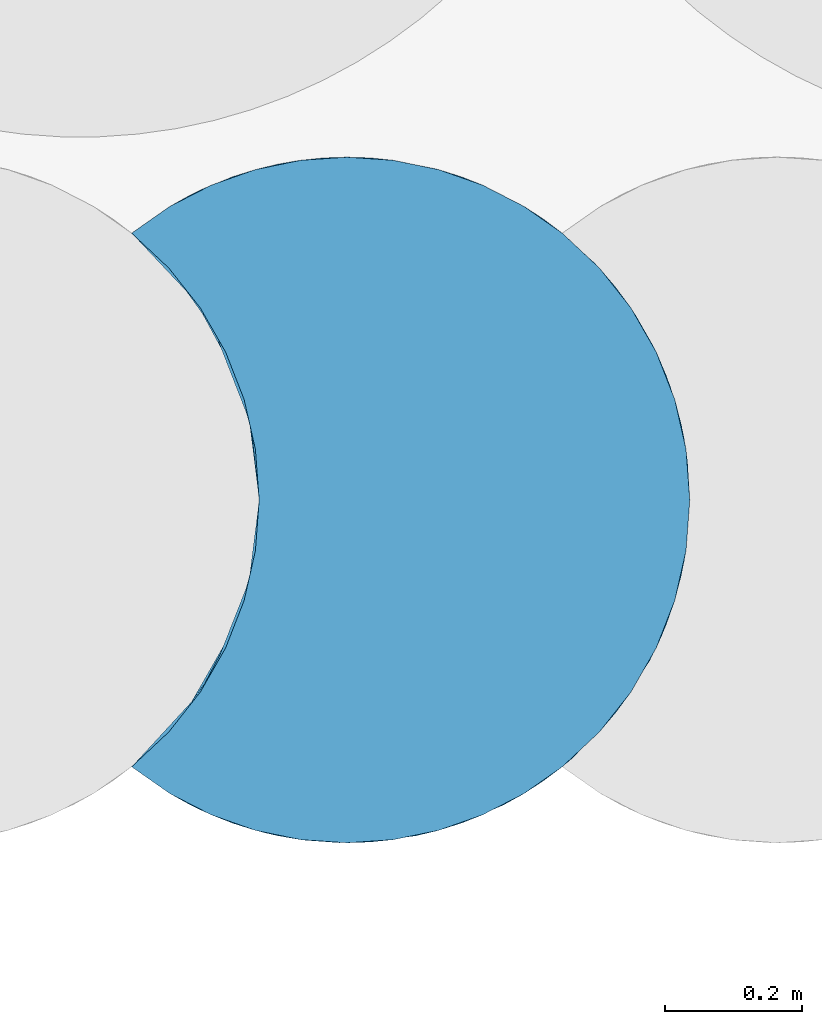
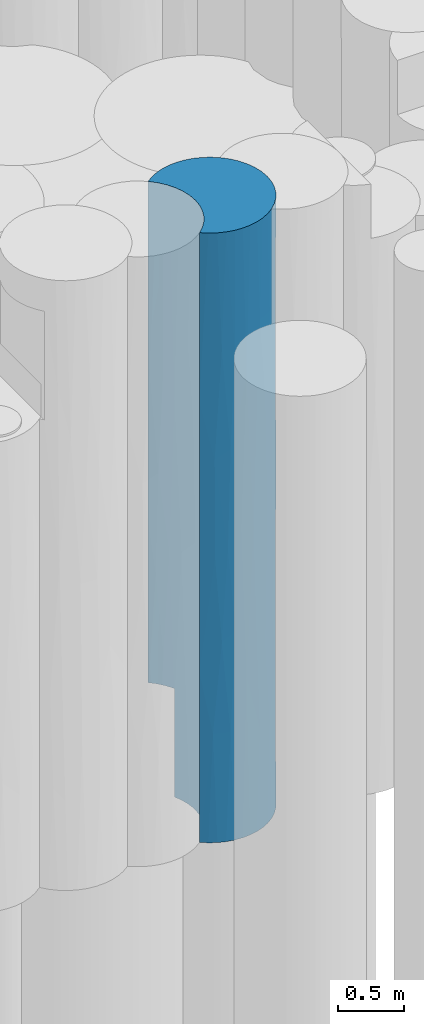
# One storey, part 21 of 104: 1 pile.
"""IFC2X3 building model written with IfcOpenShell, lengths in millimetres."""

from ifc_helpers import new_model, entity, si_unit, converted_unit, derived_unit, direction, frame, origin, place, context, subcontext, project, spatial, faceted_brep, source, transform, mapped, material, element, save


model = new_model("IFC2X3")

# Units and contexts
model_context = context("Model", 3, precision=0.01, world=origin(), true_north=direction((6.12303176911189e-17, 1.0)))
body_context = subcontext(model_context, "Body", "Model", "MODEL_VIEW")
ifc_project = project(units=[si_unit("LENGTHUNIT", "METRE", prefix="MILLI"), si_unit("AREAUNIT", "SQUARE_METRE", prefix="MILLI"), si_unit("VOLUMEUNIT", "CUBIC_METRE"), converted_unit("PLANEANGLEUNIT", "DEGREE", entity("IfcRatioMeasure", 0.0174532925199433), si_unit("PLANEANGLEUNIT", "RADIAN"), dimensions=[0, 0, 0, 0, 0, 0, 0]), si_unit("MASSUNIT", "GRAM", prefix="KILO"), derived_unit("MASSDENSITYUNIT", [(si_unit("MASSUNIT", "GRAM", prefix="KILO"), 1), (si_unit("LENGTHUNIT", "METRE"), -3)]), derived_unit("MOMENTOFINERTIAUNIT", [(si_unit("LENGTHUNIT", "METRE"), 4)]), si_unit("TIMEUNIT", "SECOND"), si_unit("FREQUENCYUNIT", "HERTZ"), si_unit("THERMODYNAMICTEMPERATUREUNIT", "DEGREE_CELSIUS"), derived_unit("THERMALTRANSMITTANCEUNIT", [(si_unit("MASSUNIT", "GRAM", prefix="KILO"), 1), (si_unit("THERMODYNAMICTEMPERATUREUNIT", "KELVIN"), -1), (si_unit("TIMEUNIT", "SECOND"), -3)]), derived_unit("VOLUMETRICFLOWRATEUNIT", [(si_unit("LENGTHUNIT", "METRE"), 3), (si_unit("TIMEUNIT", "SECOND"), -1)]), si_unit("ELECTRICCURRENTUNIT", "AMPERE"), si_unit("ELECTRICVOLTAGEUNIT", "VOLT"), si_unit("POWERUNIT", "WATT"), si_unit("FORCEUNIT", "NEWTON", prefix="KILO"), si_unit("ILLUMINANCEUNIT", "LUX"), si_unit("LUMINOUSFLUXUNIT", "LUMEN"), si_unit("LUMINOUSINTENSITYUNIT", "CANDELA"), derived_unit("USERDEFINED", [(si_unit("MASSUNIT", "GRAM", prefix="KILO"), -1), (si_unit("LENGTHUNIT", "METRE"), -2), (si_unit("TIMEUNIT", "SECOND"), 3), (si_unit("LUMINOUSFLUXUNIT", "LUMEN"), 1)]), derived_unit("LINEARVELOCITYUNIT", [(si_unit("LENGTHUNIT", "METRE"), 1), (si_unit("TIMEUNIT", "SECOND"), -1)]), si_unit("PRESSUREUNIT", "PASCAL"), derived_unit("USERDEFINED", [(si_unit("LENGTHUNIT", "METRE"), -2), (si_unit("MASSUNIT", "GRAM", prefix="KILO"), 1), (si_unit("TIMEUNIT", "SECOND"), -2)]), derived_unit("LINEARFORCEUNIT", [(si_unit("MASSUNIT", "GRAM", prefix="KILO"), 1), (si_unit("LENGTHUNIT", "METRE"), 1), (si_unit("TIMEUNIT", "SECOND"), -2), (si_unit("LENGTHUNIT", "METRE"), -1)]), derived_unit("PLANARFORCEUNIT", [(si_unit("MASSUNIT", "GRAM", prefix="KILO"), 1), (si_unit("LENGTHUNIT", "METRE"), 1), (si_unit("TIMEUNIT", "SECOND"), -2), (si_unit("LENGTHUNIT", "METRE"), -2)])], contexts=[model_context])

# Site, building, storey
site_placement = place(None, origin())
site = spatial("IfcSite", under=ifc_project, at=site_placement, Name="Theater aan de Parade", CompositionType="ELEMENT")
building_placement = place(site_placement, origin())
building = spatial("IfcBuilding", under=site, at=building_placement, Name="Theater aan de Parade", CompositionType="ELEMENT")
storey_placement = place(building_placement, frame((0.0, 0.0, -5520.0)))
storey = spatial("IfcBuildingStorey", under=building, at=storey_placement, Name="-2 kelder", CompositionType="ELEMENT", Elevation=-5520.0)

# Pile
ifc_material = material(Name="00_PBT_MAT_grout")
shared_shape = source(origin(), body_context, "Body", "Brep", [
    faceted_brep([(786.691195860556, 669.132225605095, 0.0), (802.676759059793, 614.518366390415, 0.0), (812.351470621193, 558.457204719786, 0.0), (815.595272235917, 501.595272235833, 0.0), (810.081014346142, 427.542244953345, 0.0), (793.660970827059, 355.126204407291, 0.0), (766.697585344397, 285.941143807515, 0.0), (729.786240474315, 221.513423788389, 0.0), (683.741416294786, 163.263457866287, 0.0), (629.573708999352, 112.471523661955, 0.0), (574.005639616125, 73.5484499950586, 0.0), (513.679312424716, 42.5062688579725, 0.0), (449.710167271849, 19.9177920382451, 0.0), (383.274865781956, 6.19697528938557, 0.0), (315.594989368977, 1.5952722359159, 0.0), (247.914799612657, 6.1970953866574, 0.0), (181.478594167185, 19.9182884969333, 0.0), (117.508224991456, 42.5075663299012, 0.0), (57.1823898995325, 73.5499682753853, 0.0), (1.5952722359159, 112.48860305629, 0.0), (55.7556313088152, 163.278926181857, 0.0), (101.79731605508, 221.529803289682, 0.0), (138.705014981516, 285.956685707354, 0.0), (165.664839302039, 355.138831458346, 0.0), (182.082270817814, 427.550635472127, 0.0), (187.595272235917, 501.595272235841, 0.0), (184.351856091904, 558.453837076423, 0.0), (174.676819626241, 614.518105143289, 0.0), (158.690674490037, 669.133691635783, 0.0), (136.59415864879, 721.595272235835, 0.0), (764.59415864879, 721.595272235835, 0.0), (803.850629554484, 609.329695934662, 1098.76743153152), (764.59415864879, 721.595272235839, 1000.0), (737.011343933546, 770.683537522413, 3350.65346789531), (761.366388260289, 728.064060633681, 2530.55329258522), (706.349146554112, 813.543039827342, 2504.57977053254), (815.595272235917, 501.595272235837, 2810.0), (815.595272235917, 501.595272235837, 1561.53772504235), (796.033905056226, 640.082528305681, 2185.7688370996), (446.597837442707, 984.128512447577, 3310.00430009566), (349.517904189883, 1000.44320000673, 3309.99592035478), (349.513057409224, 1000.44352957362, 4486.05467823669), (769.150938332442, 712.040651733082, 4647.38674584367), (803.217150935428, 612.161557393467, 4576.62228276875), (781.46536187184, 683.158097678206, 3717.05793522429), (315.598129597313, 1001.59527222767, 1000.0), (247.914247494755, 996.993373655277, 1000.0), (281.678049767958, 1000.44356783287, 2218.17509402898), (449.710166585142, 983.272752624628, 5620.0), (482.078281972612, 973.064685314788, 4149.15755263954), (602.467115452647, 911.112726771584, 2133.92442127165), (682.65649192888, 841.103830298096, 1000.0), (629.595272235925, 890.70194141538, 1000.0), (513.689946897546, 960.679686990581, 1000.0), (482.088212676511, 973.0611785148, 2470.89044496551), (683.741416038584, 839.92708688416, 5620.0), (707.846598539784, 811.658003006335, 4209.01499249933), (602.455926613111, 911.120564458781, 4486.06498501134), (574.01643850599, 929.635575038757, 1000.0), (727.977154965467, 784.333990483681, 1000.0), (214.463722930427, 991.260882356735, 4202.53769453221), (102.916724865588, 954.108073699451, 3914.33240845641), (86.8181886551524, 946.186147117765, 4787.72189773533), (807.681109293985, 590.204126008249, 3711.95947289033), (810.081014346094, 575.648299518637, 5620.0), (793.660970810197, 648.064340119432, 5620.0), (602.467114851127, 911.112727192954, 3309.99087476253), (766.697585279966, 717.249400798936, 5620.0), (729.78624032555, 781.677120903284, 5620.0), (1.5952722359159, 890.701941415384, 2561.5317559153), (1.5952722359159, 890.70194141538, 4123.06351183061), (182.78208985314, 983.633298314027, 2000.73200514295), (181.474504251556, 983.27111717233, 1000.0), (574.005639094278, 929.642094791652, 5620.0), (629.583826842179, 890.711177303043, 5620.0), (247.914799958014, 996.993449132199, 5620.0), (315.594989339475, 1001.59527223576, 5620.0), (676.678426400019, 847.455006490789, 3303.46444704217), (382.28647146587, 997.127596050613, 2412.9147865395), (449.719299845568, 983.270209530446, 1000.0), (383.281381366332, 996.992679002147, 1000.0), (815.595272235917, 501.595272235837, 5620.0), (815.595272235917, 501.595272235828, 4215.0), (815.595272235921, 501.595272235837, 4058.46227495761), (1.5952722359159, 890.70194141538, 5620.0), (57.1823902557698, 929.640576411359, 5620.0), (149.104149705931, 973.061820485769, 2892.10046095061), (243.892809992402, 996.427321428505, 3268.07195479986), (86.8102220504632, 946.182047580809, 2023.19420083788), (117.501033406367, 960.679875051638, 1000.0), (513.679311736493, 960.684275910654, 5620.0), (1.59527223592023, 890.701941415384, 1000.0), (117.50822549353, 960.682978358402, 5620.0), (383.274865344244, 996.993569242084, 5620.0), (57.1737559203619, 929.635363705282, 1000.0), (181.478594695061, 983.27225612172, 5620.0), (815.595272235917, 501.595272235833, 1405.0), (214.463722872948, 11.9296621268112, 1001.60366220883), (808.009902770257, 414.83219462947, 1847.98448740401), (792.434434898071, 351.181134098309, 2810.0), (86.8181884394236, 57.0043974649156, 1001.60823295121), (349.513058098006, 2.74701494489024, 1456.93127707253), (98.4515162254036, 51.2081174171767, 3529.640561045), (1.5952722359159, 112.488603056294, 4058.45131446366), (1.59527223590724, 112.488603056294, 3123.07163140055), (249.701943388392, 5.95622089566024, 4503.82682990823), (149.109845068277, 30.1267127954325, 4541.99463838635), (214.463723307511, 11.9296620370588, 3609.13851701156), (781.46536321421, 320.032450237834, 1716.18295604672), (707.846599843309, 191.532543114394, 2810.0), (707.846599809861, 191.532543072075, 1367.61085804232), (482.078283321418, 30.1258596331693, 920.01739942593), (602.45592774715, 92.0699808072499, 920.031773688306), (638.186458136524, 119.580970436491, 1901.05779753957), (544.369594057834, 57.0029762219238, 1664.68203221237), (810.081014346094, 427.542244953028, 5620.0), (803.217151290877, 391.0289886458, 4660.00032120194), (57.1823902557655, 73.5499680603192, 5620.0), (117.50822549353, 42.5075661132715, 5620.0), (149.109844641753, 30.1267129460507, 1845.00481116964), (254.091028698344, 5.39246286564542, 1927.06357322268), (602.455927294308, 92.0699804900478, 4699.96822715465), (482.078282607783, 30.1258593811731, 4699.98260157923), (544.36959341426, 57.0029758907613, 3955.31797055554), (683.741416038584, 163.263457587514, 5620.0), (629.583826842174, 112.479367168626, 5620.0), (181.478594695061, 19.9182883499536, 5620.0), (101.111523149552, 49.9353101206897, 2619.91457111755), (1.59527223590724, 112.488603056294, 1561.52294586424), (773.711306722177, 301.271287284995, 4758.76160589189), (781.465363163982, 320.03245010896, 3903.81704454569), (1.59527223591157, 112.488603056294, 5620.0), (383.274865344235, 6.19697522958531, 5620.0), (315.594989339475, 1.5952722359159, 5620.0), (349.513057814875, 2.74701492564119, 4251.72331694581), (247.914799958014, 6.19709533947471, 5620.0), (808.009902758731, 414.832194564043, 3772.01551167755), (773.711306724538, 301.271287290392, 861.238394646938), (446.449233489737, 19.0217122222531, 1841.02651395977), (445.214515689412, 18.6886024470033, 3769.12880331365), (793.660970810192, 355.126204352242, 5620.0), (766.697585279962, 285.941143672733, 5620.0), (803.21715130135, 391.028988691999, 959.999678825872), (304.342544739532, 1.72191214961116, 2858.50339849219), (193.948211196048, 16.6189918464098, 2685.15587669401), (513.679311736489, 42.50626856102, 5620.0), (449.710166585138, 19.9177918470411, 5620.0), (574.005639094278, 73.5484496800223, 5620.0), (416.72548107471, 11.9293852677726, 2810.0), (571.530120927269, 72.0637213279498, 2810.0), (707.846599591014, 191.532542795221, 4252.38914051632), (729.786240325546, 221.513423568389, 5620.0), (757.411397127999, 267.504452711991, 3167.42466505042), (638.186457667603, 119.580970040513, 3718.94220097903), (645.147285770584, 125.569381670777, 2737.35178432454), (1.59527223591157, 112.48860305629, 2496.92458727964), (55.7556313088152, 839.911618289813, 5620.0), (101.79731605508, 781.660741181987, 5620.0), (138.705014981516, 717.233858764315, 5620.0), (165.664839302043, 648.051713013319, 5620.0), (182.082270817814, 575.639908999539, 5620.0), (187.595272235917, 501.595272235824, 5620.0), (182.08227081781, 427.550635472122, 5620.0), (165.664839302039, 355.138831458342, 5620.0), (138.705014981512, 285.95668570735, 5620.0), (101.79731605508, 221.529803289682, 5620.0), (55.7556313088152, 163.278926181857, 5620.0), (136.59415864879, 721.595272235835, 1000.0), (172.12200841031, 625.020723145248, 2185.76883889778), (119.427502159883, 753.628851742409, 2433.42986645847), (175.219548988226, 612.150980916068, 4576.67015981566), (187.595272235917, 501.595272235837, 4058.46227468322), (187.595272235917, 501.595272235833, 4839.23114702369), (175.896633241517, 609.120993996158, 1097.45129906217), (94.6291822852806, 791.980182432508, 3512.63833996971), (153.470887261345, 683.143919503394, 3717.14064093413), (121.448734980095, 750.133343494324, 4576.67015594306), (187.595272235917, 501.595272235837, 2810.0), (187.595272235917, 501.595272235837, 1561.53772531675), (63.9162977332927, 830.810225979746, 1978.06996583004), (179.682000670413, 590.199175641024, 3712.09113047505), (61.853358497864, 833.153539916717, 4677.61981977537), (99.9793152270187, 784.330839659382, 1000.0), (54.6608621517, 841.09910535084, 1000.0), (187.595272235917, 501.595272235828, 780.768852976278), (187.595272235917, 501.595272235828, 3123.07541190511), (174.669644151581, 388.641493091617, 3590.76885291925), (179.684618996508, 413.005911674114, 1171.15327929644), (153.470888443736, 320.046628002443, 4528.23196711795), (178.678003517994, 407.585958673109, 4768.20537871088), (79.8592440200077, 191.548539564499, 992.298435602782), (153.470888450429, 320.046628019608, 992.298435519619), (172.048086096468, 377.879989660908, 2161.96816482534), (101.213610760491, 220.668466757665, 4584.62325484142), (121.448735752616, 253.057202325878, 3610.51128799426), (121.448735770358, 253.057202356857, 1789.11083026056), (68.3744799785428, 177.547135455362, 3047.10534667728), (64.7189653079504, 173.300099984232, 2029.23114692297), (121.049079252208, 252.360850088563, 2699.81105912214)], [[[0, 1, 2, 3, 4, 5, 6, 7, 8, 9, 10, 11, 12, 13, 14, 15, 16, 17, 18, 19, 20, 21, 22, 23, 24, 25, 26, 27, 28, 29, 30]], [[31, 0, 32]], [[33, 34, 35]], [[36, 37, 38]], [[39, 40, 41]], [[38, 37, 31]], [[42, 43, 44]], [[45, 46, 47]], [[48, 49, 41]], [[50, 51, 52]], [[53, 54, 50]], [[55, 56, 57]], [[50, 35, 51]], [[52, 58, 50]], [[0, 30, 32]], [[32, 59, 34]], [[35, 34, 59]], [[60, 61, 62]], [[43, 63, 44]], [[3, 2, 31]], [[64, 43, 65]], [[56, 42, 33]], [[54, 66, 50]], [[42, 65, 43]], [[35, 59, 51]], [[42, 67, 65]], [[67, 42, 68]], [[61, 69, 70]], [[71, 46, 72]], [[73, 74, 57]], [[41, 75, 76]], [[2, 1, 31]], [[77, 57, 56]], [[78, 79, 80]], [[43, 81, 82, 83]], [[79, 54, 53]], [[56, 55, 68]], [[78, 80, 45]], [[84, 85, 62]], [[45, 47, 78]], [[78, 47, 40]], [[86, 87, 71]], [[87, 86, 60]], [[88, 71, 89]], [[0, 31, 1]], [[39, 66, 54]], [[57, 90, 73]], [[71, 88, 86]], [[77, 56, 33]], [[69, 88, 91]], [[85, 92, 62]], [[50, 58, 53]], [[41, 49, 39]], [[57, 74, 55]], [[90, 49, 48]], [[93, 41, 76]], [[50, 66, 77]], [[41, 93, 48]], [[60, 75, 41]], [[86, 61, 60]], [[94, 88, 89]], [[69, 86, 88]], [[91, 88, 94]], [[95, 75, 60]], [[41, 40, 87]], [[95, 60, 62]], [[49, 57, 66]], [[81, 43, 64]], [[49, 90, 57]], [[63, 43, 83]], [[47, 71, 87]], [[63, 38, 44]], [[46, 71, 47]], [[89, 71, 72]], [[33, 42, 44]], [[68, 42, 56]], [[83, 36, 63]], [[38, 63, 36]], [[38, 31, 32]], [[31, 37, 96, 3]], [[66, 39, 49]], [[78, 39, 54]], [[69, 61, 86]], [[84, 62, 70]], [[62, 92, 95]], [[70, 62, 61]], [[41, 87, 60]], [[47, 87, 40]], [[34, 44, 38]], [[77, 33, 35]], [[44, 34, 33]], [[32, 34, 38]], [[50, 77, 35]], [[77, 66, 57]], [[39, 78, 40]], [[78, 54, 79]], [[97, 16, 15]], [[98, 36, 99]], [[97, 100, 17]], [[14, 97, 15]], [[14, 13, 101]], [[102, 103, 104]], [[105, 106, 107]], [[108, 109, 110]], [[12, 111, 13]], [[112, 113, 114]], [[97, 14, 101]], [[115, 116, 81]], [[117, 106, 118]], [[11, 111, 12]], [[119, 97, 120]], [[10, 111, 11]], [[121, 122, 123]], [[124, 125, 121]], [[106, 126, 118]], [[127, 128, 119]], [[129, 130, 116]], [[117, 131, 103]], [[132, 133, 134]], [[126, 106, 105]], [[17, 16, 97]], [[110, 8, 7]], [[105, 133, 135]], [[136, 82, 116]], [[122, 132, 134]], [[137, 6, 5]], [[112, 111, 10]], [[120, 97, 101]], [[111, 138, 101]], [[139, 123, 122]], [[111, 112, 114]], [[105, 107, 134]], [[137, 7, 6]], [[106, 102, 107]], [[140, 141, 129]], [[36, 136, 99]], [[142, 5, 4]], [[100, 97, 119]], [[137, 142, 108]], [[143, 144, 120]], [[143, 134, 107]], [[137, 5, 142]], [[122, 145, 146]], [[112, 8, 110]], [[112, 10, 9]], [[145, 122, 147]], [[122, 121, 147]], [[17, 100, 18]], [[148, 138, 149]], [[125, 147, 121]], [[124, 150, 151]], [[151, 150, 129]], [[140, 116, 115]], [[152, 108, 99]], [[116, 140, 129]], [[121, 153, 150]], [[103, 106, 117]], [[114, 113, 149]], [[96, 142, 3]], [[81, 116, 82]], [[18, 100, 19]], [[152, 150, 109]], [[144, 102, 127]], [[119, 128, 100]], [[19, 100, 128]], [[138, 111, 114]], [[13, 111, 101]], [[8, 112, 9]], [[113, 112, 110]], [[132, 122, 146]], [[139, 148, 149]], [[153, 121, 123]], [[124, 121, 150]], [[136, 116, 130]], [[3, 142, 4]], [[98, 142, 96]], [[110, 109, 113]], [[150, 153, 109]], [[154, 149, 113]], [[149, 123, 139]], [[123, 149, 153]], [[153, 149, 154]], [[122, 134, 139]], [[134, 148, 139]], [[103, 102, 106]], [[144, 127, 119]], [[149, 138, 114]], [[148, 101, 138]], [[143, 101, 148]], [[144, 119, 120]], [[120, 101, 143]], [[102, 144, 107]], [[134, 143, 148]], [[107, 144, 143]], [[102, 104, 127]], [[127, 104, 155, 128]], [[99, 136, 130]], [[136, 36, 83, 82]], [[98, 96, 37, 36]], [[152, 99, 130]], [[108, 142, 98]], [[99, 108, 98]], [[151, 129, 141]], [[150, 130, 129]], [[108, 110, 137]], [[7, 137, 110]], [[133, 105, 134]], [[126, 105, 135]], [[150, 152, 130]], [[108, 152, 109]], [[113, 109, 154]], [[153, 154, 109]], [[90, 48, 93, 76, 75, 95, 92, 85, 84, 156, 157, 158, 159, 160, 161, 162, 163, 164, 165, 166, 131, 117, 118, 126, 135, 133, 132, 146, 145, 147, 125, 124, 151, 141, 140, 115, 81, 64, 65, 67, 68, 55, 74, 73]], [[167, 168, 169]], [[170, 171, 172, 161]], [[173, 27, 26]], [[174, 175, 176]], [[70, 69, 174]], [[25, 173, 26]], [[177, 168, 178]], [[170, 176, 175]], [[157, 176, 158]], [[179, 174, 69]], [[170, 175, 180]], [[180, 175, 168]], [[167, 28, 173]], [[169, 175, 174]], [[181, 156, 84]], [[173, 168, 167]], [[169, 182, 167]], [[183, 182, 179]], [[70, 174, 181]], [[181, 176, 157]], [[160, 159, 170]], [[179, 69, 91]], [[171, 170, 180]], [[170, 158, 176]], [[158, 170, 159]], [[160, 170, 161]], [[179, 169, 174]], [[28, 167, 29]], [[173, 178, 168]], [[156, 181, 157]], [[169, 168, 175]], [[173, 25, 184, 178]], [[28, 27, 173]], [[180, 177, 185, 171]], [[177, 180, 168]], [[169, 179, 182]], [[183, 179, 91]], [[176, 181, 174]], [[70, 181, 84]], [[185, 186, 171]], [[184, 24, 187]], [[188, 163, 189]], [[190, 20, 19]], [[22, 21, 190, 191]], [[21, 20, 190]], [[186, 185, 192]], [[166, 193, 103]], [[193, 188, 194]], [[189, 171, 186]], [[191, 195, 192]], [[191, 192, 187]], [[188, 193, 164]], [[162, 172, 189]], [[184, 25, 24]], [[161, 172, 162]], [[188, 164, 163]], [[166, 103, 131]], [[164, 193, 165]], [[155, 196, 197]], [[23, 187, 24]], [[23, 22, 191]], [[190, 195, 191]], [[196, 155, 104, 103]], [[197, 128, 155]], [[195, 190, 197]], [[128, 190, 19]], [[186, 194, 188]], [[186, 192, 198]], [[192, 185, 177, 178]], [[194, 186, 198]], [[128, 197, 190]], [[194, 198, 196]], [[195, 197, 198]], [[193, 194, 196]], [[165, 193, 166]], [[103, 193, 196]], [[196, 198, 197]], [[195, 198, 192]], [[172, 171, 189]], [[162, 189, 163]], [[188, 189, 186]], [[178, 184, 187]], [[178, 187, 192]], [[23, 191, 187]], [[94, 89, 72, 46, 45, 80, 79, 53, 58, 52, 51, 59, 32, 167, 182, 183, 91]], [[167, 32, 30, 29]]]),
])
pile_placement = place(storey_placement, frame((36522.2628578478, 22160.7721311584, -3840.0)))
element("IfcPile", 1, at=pile_placement, inside=storey, material=ifc_material, Name="17_PBT_SFO_grondkering_rond:Ø1000 (grondkering)", ObjectType="17_PBT_SFO_grondkering_rond:Ø1000 (grondkering)", PredefinedType="NOTDEFINED", context=body_context, shape_type="MappedRepresentation", body=[
    mapped(shared_shape, transform((0.0, 0.0, 0.0), scale=1.0)),
])

save(model, "model.ifc")
